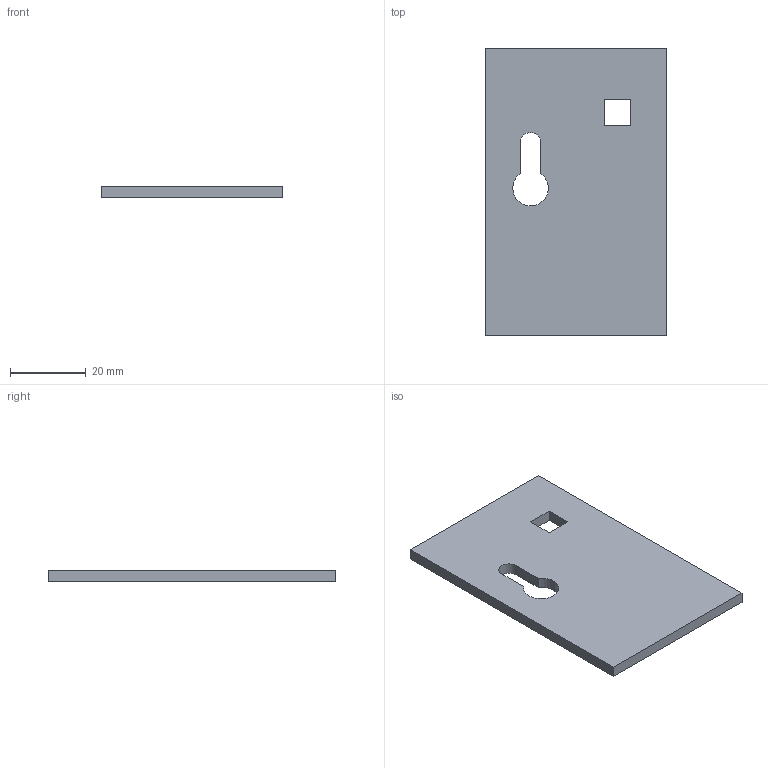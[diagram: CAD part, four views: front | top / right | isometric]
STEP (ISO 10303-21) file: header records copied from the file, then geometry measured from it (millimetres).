
FILE_DESCRIPTION(('Open CASCADE Model'),'2;1');
FILE_NAME('Open CASCADE Shape Model','2026-11-12T17:04:52',('Author'),( 'Open CASCADE'),'Open CASCADE STEP processor 7.8','Open CASCADE 7.8' ,'Unknown');
FILE_SCHEMA(('AUTOMOTIVE_DESIGN { 1 0 10303 214 1 1 1 1 }'));
Length unit declared in the file: millimetre
Products named in the file (1): Open CASCADE STEP translator 7.8 6
Bounding box: 48 x 76 x 3 mm (x, y, z)
Volume: 10431.8 mm3; surface area: 7928.2 mm2
Topology: 1 solids, 1 shells, 14 faces, 36 edges, 24 vertices
Faces by surface type: plane 12, cylinder 2
Entity records: 894 total; most frequent: CARTESIAN_POINT 199, DIRECTION 110, ORIENTED_EDGE 72, LINE 72, VECTOR 72, PCURVE 72, DEFINITIONAL_REPRESENTATION 72, EDGE_CURVE 36
